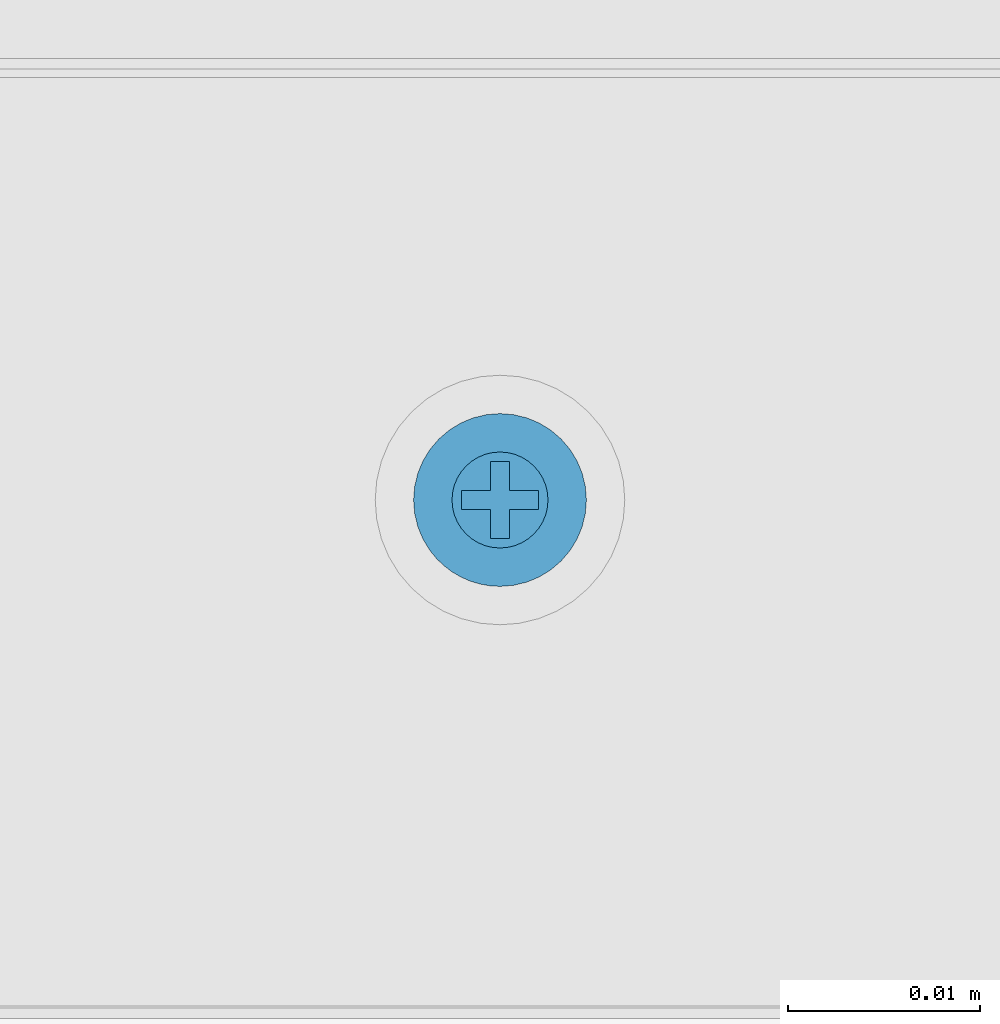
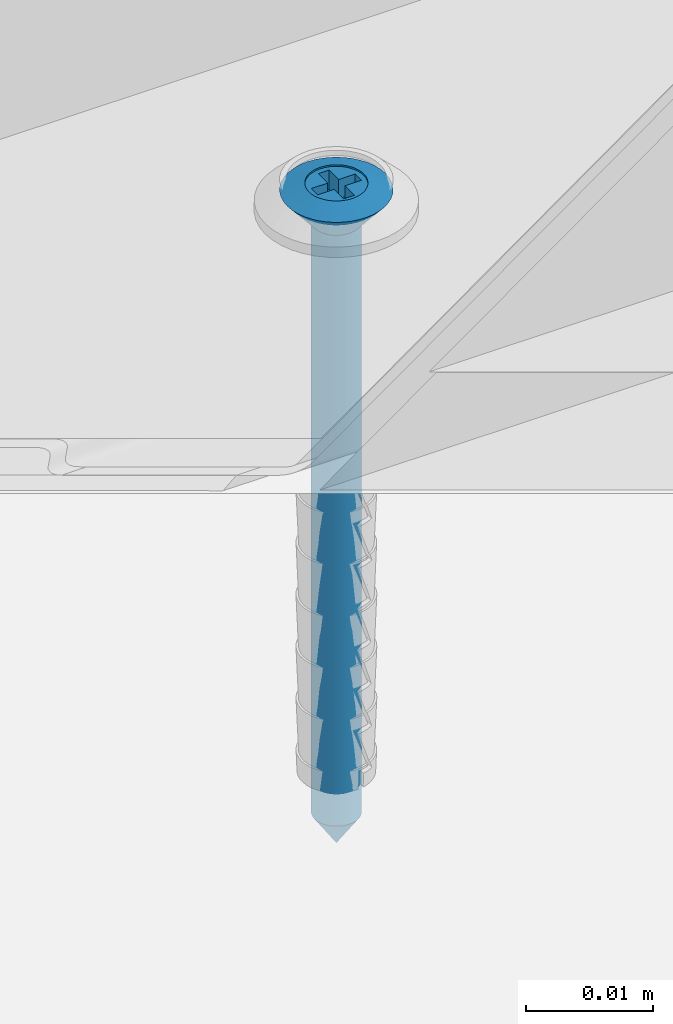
# One storey, part 15 of 36: 1 wall.
"""IFC2X3 building model written with IfcOpenShell, lengths in millimetres."""

from ifc_helpers import new_model, entity, si_unit, converted_unit, direction, frame, origin, origin_with_axes, place, context, project, spatial, faceted_brep, element, save


model = new_model("IFC2X3")

# Units and contexts
model_context = context("Model", 3, precision=1e-05, world=origin(), true_north=direction((0.0, 1.0, 0.0)))
ifc_project = project(units=[si_unit("LENGTHUNIT", "METRE", prefix="MILLI"), si_unit("AREAUNIT", "SQUARE_METRE"), si_unit("VOLUMEUNIT", "CUBIC_METRE"), converted_unit("PLANEANGLEUNIT", "DEGREE", entity("IfcPlaneAngleMeasure", 0.01745), si_unit("PLANEANGLEUNIT", "RADIAN"), dimensions=[0, 0, 0, 0, 0, 0, 0]), si_unit("SOLIDANGLEUNIT", "STERADIAN"), si_unit("MASSUNIT", "GRAM"), si_unit("TIMEUNIT", "SECOND"), si_unit("THERMODYNAMICTEMPERATUREUNIT", "DEGREE_CELSIUS"), si_unit("LUMINOUSINTENSITYUNIT", "LUMEN")], contexts=[model_context])

# Site, building, storey
site_placement = place(None, origin_with_axes())
site = spatial("IfcSite", under=ifc_project, at=site_placement, Name="Default Site", CompositionType="ELEMENT")
building_placement = place(site_placement, origin_with_axes())
building = spatial("IfcBuilding", under=site, at=building_placement, Name="Default Building", CompositionType="ELEMENT")
storey_placement = place(building_placement, origin_with_axes())
storey = spatial("IfcBuildingStorey", under=building, at=storey_placement, Name="Default Building Storey", CompositionType="ELEMENT", Elevation=0.0)

# Wall
wall_placement = place(storey_placement, frame((4202.454370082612, 5452.424146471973, 110.3903952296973), z_axis=(7.620176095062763e-14, -6.858158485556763e-13, 1.0), x_axis=(1.0, -9.714451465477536e-17, -7.620176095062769e-14)))
element("IfcWall", 1, at=wall_placement, inside=storey, Name="Kołek rozporowy min. fi 6", context=model_context, shape_type="Brep", body=[
    faceted_brep([(-1438.31414949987, -3453.283223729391, -0.4642567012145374), (-1435.814149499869, -3453.283223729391, -3.464256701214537), (-1435.78952618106, -3452.97035479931, -3.464256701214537), (-1438.258747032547, -3452.57926863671, -0.4642567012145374), (-1435.71626253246, -3452.665189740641, -3.464256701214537), (-1438.093903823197, -3451.892647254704, -0.4642567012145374), (-1435.596162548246, -3452.375242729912, -3.464256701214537), (-1437.823678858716, -3451.240266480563, -0.4642567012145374), (-1435.432183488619, -3452.107653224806, -3.464256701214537), (-1437.454725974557, -3450.638190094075, -0.4642567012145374), (-1435.228363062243, -3451.869010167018, -3.464256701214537), (-1436.996130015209, -3450.101243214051, -0.4642567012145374), (-1434.989720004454, -3451.665189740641, -3.464256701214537), (-1436.459183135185, -3449.642647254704, -0.4642567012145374), (-1434.722130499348, -3451.501210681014, -3.464256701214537), (-1435.857106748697, -3449.273694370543, -0.4642567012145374), (-1434.432183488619, -3451.381110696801, -3.464256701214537), (-1435.204725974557, -3449.003469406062, -0.4642567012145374), (-1434.12701842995, -3451.307847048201, -3.464256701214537), (-1434.51810459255, -3448.838626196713, -0.4642567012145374), (-1433.814149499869, -3451.283223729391, -3.464256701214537), (-1433.814149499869, -3448.783223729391, -0.4642567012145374), (-1433.501280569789, -3451.307847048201, -3.464256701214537), (-1433.110194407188, -3448.838626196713, -0.4642567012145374), (-1433.19611551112, -3451.381110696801, -3.464256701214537), (-1432.423573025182, -3449.003469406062, -0.4642567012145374), (-1432.906168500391, -3451.501210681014, -3.464256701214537), (-1431.771192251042, -3449.273694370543, -0.4642567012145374), (-1432.638578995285, -3451.665189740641, -3.464256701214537), (-1431.169115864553, -3449.642647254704, -0.4642567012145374), (-1432.399935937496, -3451.869010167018, -3.464256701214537), (-1430.63216898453, -3450.101243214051, -0.4642567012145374), (-1432.196115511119, -3452.107653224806, -3.464256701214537), (-1430.173573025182, -3450.638190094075, -0.4642567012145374), (-1432.032136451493, -3452.375242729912, -3.464256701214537), (-1429.804620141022, -3451.240266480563, -0.4642567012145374), (-1431.912036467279, -3452.665189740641, -3.464256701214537), (-1429.534395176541, -3451.892647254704, -0.4642567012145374), (-1431.838772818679, -3453.596092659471, -3.464256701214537), (-1429.369551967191, -3453.987178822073, -0.4642567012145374), (-1429.314149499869, -3453.283223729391, -0.4642567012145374), (-1431.81414949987, -3453.283223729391, -3.464256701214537), (-1429.369551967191, -3452.57926863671, -0.4642567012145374), (-1431.838772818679, -3452.97035479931, -3.464256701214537), (-1431.912036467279, -3453.901257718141, -3.464256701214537), (-1429.534395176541, -3454.673800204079, -0.4642567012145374), (-1432.032136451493, -3454.19120472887, -3.464256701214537), (-1429.804620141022, -3455.326180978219, -0.4642567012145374), (-1432.196115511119, -3454.458794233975, -3.464256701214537), (-1430.173573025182, -3455.928257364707, -0.4642567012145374), (-1432.399935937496, -3454.697437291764, -3.464256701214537), (-1430.63216898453, -3456.465204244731, -0.4642567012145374), (-1432.638578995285, -3454.901257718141, -3.464256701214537), (-1431.169115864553, -3456.923800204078, -0.4642567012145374), (-1432.906168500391, -3455.065236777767, -3.464256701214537), (-1431.771192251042, -3457.292753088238, -0.4642567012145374), (-1433.19611551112, -3455.185336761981, -3.464256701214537), (-1432.423573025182, -3457.562978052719, -0.4642567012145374), (-1433.501280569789, -3455.258600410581, -3.464256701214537), (-1433.110194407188, -3457.727821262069, -0.4642567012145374), (-1433.814149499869, -3455.283223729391, -3.464256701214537), (-1433.814149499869, -3457.783223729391, -0.4642567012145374), (-1434.34306778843, -3457.752031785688, -0.4642567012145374), (-1434.12701842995, -3455.258600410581, -3.464256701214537), (-1434.432183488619, -3455.185336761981, -3.464256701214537), (-1434.864653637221, -3457.658888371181, -0.4642567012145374), (-1435.371676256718, -3457.505084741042, -0.4642567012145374), (-1434.722130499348, -3455.065236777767, -3.464256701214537), (-1435.857106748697, -3457.292753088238, -0.4642567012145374), (-1434.989720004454, -3454.901257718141, -3.464256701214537), (-1435.228363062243, -3454.697437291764, -3.464256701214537), (-1436.314215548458, -3457.024836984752, -0.4642567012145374), (-1436.736665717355, -3456.705050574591, -0.4642567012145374), (-1437.11860079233, -3456.337827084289, -0.4642567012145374), (-1437.454725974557, -3455.928257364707, -0.4642567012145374), (-1435.432183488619, -3454.458794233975, -3.464256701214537), (-1435.596162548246, -3454.19120472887, -3.464256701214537), (-1437.823678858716, -3455.326180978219, -0.4642567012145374), (-1435.71626253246, -3453.901257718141, -3.464256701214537), (-1438.093903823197, -3454.673800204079, -0.4642567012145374), (-1435.78952618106, -3453.596092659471, -3.464256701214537), (-1438.258747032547, -3453.987178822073, -0.4642567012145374), (-1434.205235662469, -3455.752444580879, 0.2007375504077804), (-1433.814149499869, -3455.78322372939, 0.2007375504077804), (-1434.586691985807, -3455.660865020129, 0.2007375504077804), (-1434.949125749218, -3455.510740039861, 0.2007375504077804), (-1435.283612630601, -3455.305766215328, 0.2007375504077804), (-1435.581916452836, -3455.050990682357, 0.2007375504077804), (-1435.836691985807, -3454.752686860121, 0.2007375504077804), (-1436.04166581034, -3454.41819997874, 0.2007375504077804), (-1436.191790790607, -3454.055766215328, 0.2007375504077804), (-1436.283370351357, -3453.674309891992, 0.2007375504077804), (-1436.314149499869, -3453.283223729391, 0.2007375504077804), (-1436.283370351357, -3452.892137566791, 0.2007375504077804), (-1436.191790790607, -3452.510681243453, 0.2007375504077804), (-1436.04166581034, -3452.148247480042, 0.2007375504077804), (-1435.836691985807, -3451.81376059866, 0.200737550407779), (-1435.581916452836, -3451.515456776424, 0.2007375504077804), (-1435.283612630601, -3451.260681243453, 0.2007375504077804), (-1434.949125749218, -3451.05570741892, 0.2007375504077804), (-1434.586691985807, -3450.905582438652, 0.2007375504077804), (-1433.423063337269, -3450.814002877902, 0.2007375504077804), (-1433.814149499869, -3450.783223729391, 0.2007375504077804), (-1434.205235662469, -3450.814002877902, 0.2007375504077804), (-1433.041607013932, -3450.905582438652, 0.2007375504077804), (-1432.67917325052, -3451.05570741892, 0.2007375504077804), (-1432.344686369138, -3451.260681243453, 0.2007375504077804), (-1432.046382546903, -3451.515456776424, 0.2007375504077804), (-1431.791607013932, -3451.81376059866, 0.2007375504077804), (-1431.586633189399, -3452.148247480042, 0.2007375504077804), (-1431.436508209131, -3452.510681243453, 0.2007375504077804), (-1431.344928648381, -3452.892137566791, 0.2007375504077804), (-1431.314149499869, -3453.283223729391, 0.2007375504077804), (-1431.344928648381, -3453.674309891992, 0.2007375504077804), (-1431.436508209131, -3454.055766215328, 0.2007375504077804), (-1431.586633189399, -3454.41819997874, 0.2007375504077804), (-1431.791607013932, -3454.752686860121, 0.2007375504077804), (-1432.046382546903, -3455.050990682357, 0.2007375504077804), (-1432.344686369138, -3455.305766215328, 0.2007375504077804), (-1432.67917325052, -3455.510740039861, 0.2007375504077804), (-1433.041607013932, -3455.660865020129, 0.2007375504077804), (-1433.423063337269, -3455.752444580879, 0.2007375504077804), (-1433.814149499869, -3453.283223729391, -63.46425670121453), (-1435.789526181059, -3452.97035479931, -60.46425670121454), (-1435.814149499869, -3453.283223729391, -60.46425670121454), (-1435.716262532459, -3452.665189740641, -60.46425670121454), (-1435.596162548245, -3452.375242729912, -60.46425670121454), (-1435.432183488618, -3452.107653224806, -60.46425670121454), (-1435.228363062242, -3451.869010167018, -60.46425670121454), (-1434.989720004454, -3451.665189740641, -60.46425670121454), (-1434.722130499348, -3451.501210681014, -60.46425670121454), (-1434.432183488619, -3451.381110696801, -60.46425670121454), (-1434.127018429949, -3451.307847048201, -60.46425670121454), (-1433.814149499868, -3451.283223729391, -60.46425670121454), (-1433.501280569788, -3451.307847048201, -60.46425670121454), (-1433.196115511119, -3451.381110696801, -60.46425670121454), (-1432.90616850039, -3451.501210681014, -60.46425670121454), (-1432.638578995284, -3451.665189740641, -60.46425670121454), (-1432.399935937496, -3451.869010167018, -60.46425670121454), (-1432.196115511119, -3452.107653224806, -60.46425670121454), (-1432.032136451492, -3452.375242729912, -60.46425670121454), (-1431.912036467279, -3452.665189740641, -60.46425670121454), (-1431.838772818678, -3452.97035479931, -60.46425670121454), (-1431.814149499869, -3453.283223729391, -60.46425670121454), (-1431.838772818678, -3453.596092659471, -60.46425670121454), (-1431.912036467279, -3453.901257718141, -60.46425670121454), (-1432.032136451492, -3454.19120472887, -60.46425670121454), (-1432.196115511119, -3454.458794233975, -60.46425670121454), (-1432.399935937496, -3454.697437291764, -60.46425670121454), (-1432.638578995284, -3454.901257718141, -60.46425670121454), (-1432.90616850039, -3455.065236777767, -60.46425670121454), (-1433.196115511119, -3455.185336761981, -60.46425670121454), (-1433.501280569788, -3455.258600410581, -60.46425670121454), (-1433.814149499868, -3455.283223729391, -60.46425670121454), (-1434.127018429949, -3455.258600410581, -60.46425670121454), (-1434.432183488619, -3455.185336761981, -60.46425670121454), (-1434.722130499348, -3455.065236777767, -60.46425670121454), (-1434.989720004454, -3454.901257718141, -60.46425670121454), (-1435.228363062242, -3454.697437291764, -60.46425670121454), (-1435.432183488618, -3454.458794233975, -60.46425670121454), (-1435.596162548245, -3454.19120472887, -60.46425670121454), (-1435.716262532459, -3453.901257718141, -60.46425670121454), (-1435.789526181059, -3453.596092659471, -60.46425670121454), (-1435.814149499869, -3453.783223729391, 0.04999999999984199), (-1436.04166581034, -3454.41819997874, 0.04999999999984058), (-1436.191790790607, -3454.055766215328, 0.04999999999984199), (-1435.814149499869, -3452.783223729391, 0.04999999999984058), (-1434.314149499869, -3453.783223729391, 0.04999999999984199), (-1434.314149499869, -3455.28322372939, 0.04999999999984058), (-1433.314149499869, -3455.28322372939, 0.04999999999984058), (-1433.314149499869, -3453.783223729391, 0.04999999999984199), (-1431.814149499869, -3453.783223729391, 0.04999999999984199), (-1431.814149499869, -3452.783223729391, 0.04999999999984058), (-1433.314149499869, -3452.783223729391, 0.04999999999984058), (-1433.314149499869, -3451.283223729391, 0.04999999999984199), (-1434.314149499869, -3451.283223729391, 0.04999999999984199), (-1434.314149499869, -3452.783223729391, 0.04999999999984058), (-1436.283370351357, -3453.674309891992, 0.04999999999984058), (-1436.314149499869, -3453.283223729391, 0.04999999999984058), (-1436.283370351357, -3452.892137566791, 0.04999999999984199), (-1436.191790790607, -3452.510681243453, 0.04999999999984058), (-1436.04166581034, -3452.148247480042, 0.04999999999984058), (-1435.836691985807, -3451.81376059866, 0.04999999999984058), (-1435.581916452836, -3451.515456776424, 0.04999999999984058), (-1435.283612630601, -3451.260681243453, 0.04999999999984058), (-1434.949125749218, -3451.05570741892, 0.04999999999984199), (-1434.586691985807, -3450.905582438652, 0.04999999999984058), (-1434.205235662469, -3450.814002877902, 0.04999999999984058), (-1433.814149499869, -3450.783223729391, 0.04999999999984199), (-1433.423063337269, -3450.814002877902, 0.04999999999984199), (-1433.041607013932, -3450.905582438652, 0.04999999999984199), (-1432.67917325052, -3451.05570741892, 0.04999999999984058), (-1432.344686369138, -3451.260681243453, 0.04999999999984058), (-1432.046382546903, -3451.515456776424, 0.04999999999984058), (-1431.791607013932, -3451.81376059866, 0.04999999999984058), (-1431.586633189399, -3452.148247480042, 0.04999999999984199), (-1431.436508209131, -3452.510681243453, 0.04999999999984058), (-1431.344928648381, -3452.892137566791, 0.04999999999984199), (-1431.314149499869, -3453.283223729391, 0.04999999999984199), (-1431.344928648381, -3453.674309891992, 0.04999999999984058), (-1431.436508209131, -3454.055766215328, 0.04999999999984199), (-1431.586633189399, -3454.41819997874, 0.04999999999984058), (-1431.791607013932, -3454.752686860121, 0.04999999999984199), (-1432.046382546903, -3455.050990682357, 0.04999999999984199), (-1432.344686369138, -3455.305766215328, 0.04999999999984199), (-1432.67917325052, -3455.510740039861, 0.04999999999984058), (-1433.041607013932, -3455.660865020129, 0.04999999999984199), (-1433.423063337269, -3455.752444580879, 0.04999999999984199), (-1433.814149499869, -3455.78322372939, 0.04999999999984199), (-1434.205235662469, -3455.752444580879, 0.04999999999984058), (-1434.586691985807, -3455.660865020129, 0.04999999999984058), (-1434.949125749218, -3455.510740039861, 0.04999999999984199), (-1435.283612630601, -3455.305766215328, 0.04999999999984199), (-1435.581916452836, -3455.050990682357, 0.04999999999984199), (-1435.836691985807, -3454.752686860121, 0.04999999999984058), (-1434.314149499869, -3452.783223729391, -1.79926244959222), (-1434.314149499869, -3451.283223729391, -1.799262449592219), (-1433.314149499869, -3451.283223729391, -1.799262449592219), (-1433.314149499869, -3452.783223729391, -1.79926244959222), (-1431.81414949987, -3452.783223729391, -1.79926244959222), (-1431.81414949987, -3453.783223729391, -1.799262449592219), (-1433.314149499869, -3453.783223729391, -1.799262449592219), (-1433.314149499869, -3455.28322372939, -1.79926244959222), (-1434.314149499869, -3455.28322372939, -1.79926244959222), (-1434.314149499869, -3453.783223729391, -1.799262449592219), (-1435.814149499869, -3453.783223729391, -1.799262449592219), (-1435.814149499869, -3452.783223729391, -1.79926244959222)], [[[0, 1, 2, 3]], [[4, 5, 3, 2]], [[6, 7, 5, 4]], [[7, 6, 8, 9]], [[10, 11, 9, 8]], [[11, 10, 12, 13]], [[14, 15, 13, 12]], [[16, 17, 15, 14]], [[17, 16, 18, 19]], [[20, 21, 19, 18]], [[21, 20, 22, 23]], [[24, 25, 23, 22]], [[26, 27, 25, 24]], [[27, 26, 28, 29]], [[30, 31, 29, 28]], [[31, 30, 32, 33]], [[34, 35, 33, 32]], [[36, 37, 35, 34]], [[38, 39, 40, 41]], [[41, 40, 42, 43]], [[37, 36, 43, 42]], [[44, 45, 39, 38]], [[46, 47, 45, 44]], [[47, 46, 48, 49]], [[50, 51, 49, 48]], [[51, 50, 52, 53]], [[54, 55, 53, 52]], [[56, 57, 55, 54]], [[57, 56, 58, 59]], [[60, 61, 59, 58]], [[62, 61, 63]], [[61, 60, 63]], [[63, 64, 62]], [[64, 65, 62]], [[66, 65, 64]], [[64, 67, 66]], [[67, 68, 66]], [[69, 70, 71]], [[70, 72, 71]], [[71, 68, 69]], [[68, 67, 69]], [[70, 73, 72]], [[74, 73, 75]], [[73, 70, 75]], [[76, 77, 74, 75]], [[78, 79, 77, 76]], [[79, 78, 80, 81]], [[1, 0, 81, 80]], [[82, 83, 62]], [[83, 61, 62]], [[62, 65, 82]], [[65, 84, 82]], [[66, 68, 84]], [[68, 85, 84]], [[84, 65, 66]], [[86, 85, 71]], [[85, 68, 71]], [[72, 73, 87]], [[87, 86, 72]], [[86, 71, 72]], [[88, 87, 74]], [[87, 73, 74]], [[77, 89, 88, 74]], [[79, 90, 89, 77]], [[90, 79, 81, 91]], [[0, 92, 91, 81]], [[92, 0, 3, 93]], [[5, 94, 93, 3]], [[7, 95, 94, 5]], [[95, 7, 9, 96]], [[11, 97, 96, 9]], [[97, 11, 13, 98]], [[15, 99, 98, 13]], [[17, 100, 99, 15]], [[23, 101, 102, 21]], [[21, 102, 103, 19]], [[100, 17, 19, 103]], [[25, 104, 101, 23]], [[27, 105, 104, 25]], [[105, 27, 29, 106]], [[31, 107, 106, 29]], [[107, 31, 33, 108]], [[35, 109, 108, 33]], [[37, 110, 109, 35]], [[110, 37, 42, 111]], [[40, 112, 111, 42]], [[112, 40, 39, 113]], [[45, 114, 113, 39]], [[47, 115, 114, 45]], [[115, 47, 49, 116]], [[51, 117, 116, 49]], [[117, 51, 53, 118]], [[55, 119, 118, 53]], [[57, 120, 119, 55]], [[120, 57, 59, 121]], [[61, 83, 121, 59]], [[122, 123, 124]], [[122, 125, 123]], [[122, 126, 125]], [[127, 126, 122]], [[122, 128, 127]], [[129, 128, 122]], [[122, 130, 129]], [[122, 131, 130]], [[132, 131, 122]], [[122, 133, 132]], [[134, 133, 122]], [[122, 135, 134]], [[122, 136, 135]], [[137, 136, 122]], [[122, 138, 137]], [[139, 138, 122]], [[122, 140, 139]], [[122, 141, 140]], [[142, 141, 122]], [[122, 143, 142]], [[144, 143, 122]], [[122, 145, 144]], [[122, 146, 145]], [[147, 146, 122]], [[122, 148, 147]], [[149, 148, 122]], [[122, 150, 149]], [[122, 151, 150]], [[152, 151, 122]], [[122, 153, 152]], [[154, 153, 122]], [[122, 155, 154]], [[122, 156, 155]], [[157, 156, 122]], [[122, 158, 157]], [[159, 158, 122]], [[122, 160, 159]], [[122, 161, 160]], [[162, 161, 122]], [[124, 162, 122]], [[1, 124, 123, 2]], [[125, 4, 2, 123]], [[126, 6, 4, 125]], [[6, 126, 127, 8]], [[128, 10, 8, 127]], [[10, 128, 129, 12]], [[130, 14, 12, 129]], [[131, 16, 14, 130]], [[16, 131, 132, 18]], [[133, 20, 18, 132]], [[20, 133, 134, 22]], [[135, 24, 22, 134]], [[136, 26, 24, 135]], [[26, 136, 137, 28]], [[138, 30, 28, 137]], [[30, 138, 139, 32]], [[140, 34, 32, 139]], [[141, 36, 34, 140]], [[144, 38, 41, 143]], [[143, 41, 43, 142]], [[36, 141, 142, 43]], [[145, 44, 38, 144]], [[146, 46, 44, 145]], [[46, 146, 147, 48]], [[148, 50, 48, 147]], [[50, 148, 149, 52]], [[150, 54, 52, 149]], [[151, 56, 54, 150]], [[56, 151, 152, 58]], [[153, 60, 58, 152]], [[60, 153, 154, 63]], [[155, 64, 63, 154]], [[156, 67, 64, 155]], [[67, 156, 157, 69]], [[158, 70, 69, 157]], [[70, 158, 159, 75]], [[160, 76, 75, 159]], [[161, 78, 76, 160]], [[78, 161, 162, 80]], [[124, 1, 80, 162]], [[163, 164, 165, 166]], [[163, 167, 168, 169, 170, 171, 172, 173, 174, 175, 176, 166, 165, 177, 178, 179, 180, 181, 182, 183, 184, 185, 186, 187, 188, 189, 190, 191, 192, 193, 194, 195, 196, 197, 198, 199, 200, 201, 202, 203, 204, 205, 206, 207, 208, 209, 210, 211, 212, 213, 214, 164]], [[199, 198, 112, 113]], [[113, 114, 200, 199]], [[114, 115, 201, 200]], [[202, 201, 115, 116]], [[116, 117, 203, 202]], [[204, 203, 117, 118]], [[118, 119, 205, 204]], [[119, 120, 206, 205]], [[207, 206, 120, 121]], [[121, 83, 208, 207]], [[209, 208, 83, 82]], [[82, 84, 210, 209]], [[84, 85, 211, 210]], [[212, 211, 85, 86]], [[86, 87, 213, 212]], [[214, 213, 87, 88]], [[88, 89, 164, 214]], [[89, 90, 165, 164]], [[92, 93, 179, 178]], [[91, 92, 178, 177]], [[177, 165, 90, 91]], [[93, 94, 180, 179]], [[94, 95, 181, 180]], [[182, 181, 95, 96]], [[96, 97, 183, 182]], [[184, 183, 97, 98]], [[98, 99, 185, 184]], [[99, 100, 186, 185]], [[187, 186, 100, 103]], [[103, 102, 188, 187]], [[189, 188, 102, 101]], [[101, 104, 190, 189]], [[104, 105, 191, 190]], [[192, 191, 105, 106]], [[106, 107, 193, 192]], [[194, 193, 107, 108]], [[108, 109, 195, 194]], [[109, 110, 196, 195]], [[197, 196, 110, 111]], [[111, 112, 198, 197]], [[215, 216, 217, 218, 219, 220, 221, 222, 223, 224, 225, 226]], [[216, 175, 174, 217]], [[215, 176, 175, 216]], [[226, 166, 176, 215]], [[225, 163, 166, 226]], [[224, 167, 163, 225]], [[223, 168, 167, 224]], [[222, 169, 168, 223]], [[221, 170, 169, 222]], [[220, 171, 170, 221]], [[219, 172, 171, 220]], [[218, 173, 172, 219]], [[217, 174, 173, 218]]]),
])

save(model, "model.ifc")
